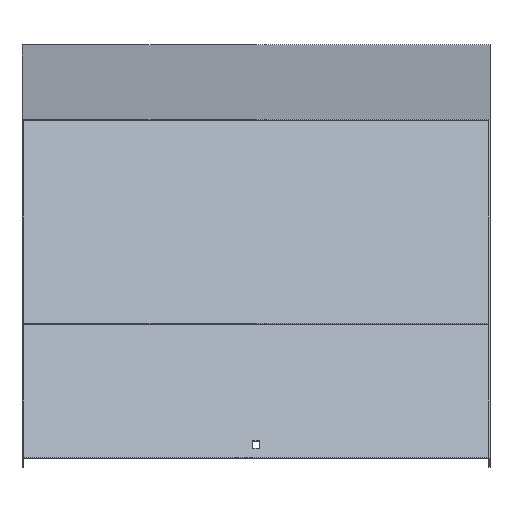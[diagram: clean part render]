
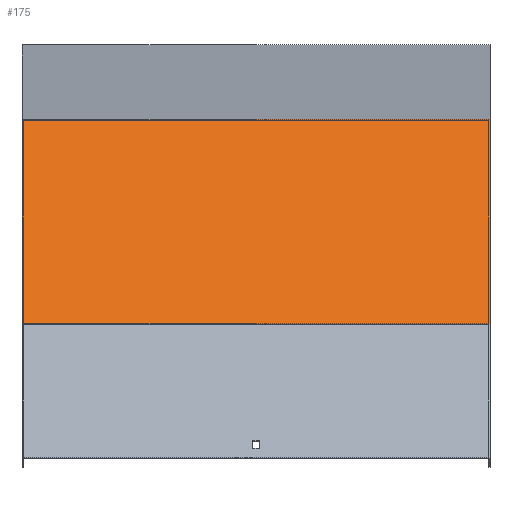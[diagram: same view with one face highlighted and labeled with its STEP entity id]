
A CAD part, top view. The second image highlights one B-rep face of the part: STEP entity #175.
In plain terms, the highlighted planar face has unit normal (0, 0.707, 0.707).
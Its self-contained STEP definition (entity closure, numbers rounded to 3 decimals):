
#68 = EDGE_LOOP ( 'NONE', ( #323, #306, #930, #759 ) ) ;
#74 = LINE ( 'NONE', #746, #324 ) ;
#97 = VERTEX_POINT ( 'NONE', #743 ) ;
#98 = CARTESIAN_POINT ( 'NONE',  ( -251.5, -60.491, 467.028 ) ) ;
#131 = FACE_OUTER_BOUND ( 'NONE', #68, .T. ) ;
#175 = ADVANCED_FACE ( 'NONE', ( #131 ), #219, .F. ) ;
#177 = LINE ( 'NONE', #478, #627 ) ;
#194 = DIRECTION ( 'NONE',  ( -1., 0., 0. ) ) ;
#219 = PLANE ( 'NONE',  #783 ) ;
#294 = VERTEX_POINT ( 'NONE', #543 ) ;
#306 = ORIENTED_EDGE ( 'NONE', *, *, #549, .F. ) ;
#308 = EDGE_CURVE ( 'NONE', #896, #294, #177, .T. ) ;
#323 = ORIENTED_EDGE ( 'NONE', *, *, #308, .T. ) ;
#324 = VECTOR ( 'NONE', #520, 1000. ) ;
#358 = CARTESIAN_POINT ( 'NONE',  ( 251.5, -64.28, 470.818 ) ) ;
#443 = DIRECTION ( 'NONE',  ( 0., -0.707, 0.707 ) ) ;
#458 = VECTOR ( 'NONE', #194, 1000. ) ;
#478 = CARTESIAN_POINT ( 'NONE',  ( -251.5, -64.28, 470.818 ) ) ;
#480 = VERTEX_POINT ( 'NONE', #761 ) ;
#520 = DIRECTION ( 'NONE',  ( -1., 0., 0. ) ) ;
#543 = CARTESIAN_POINT ( 'NONE',  ( -251.5, -280.395, 686.933 ) ) ;
#544 = EDGE_CURVE ( 'NONE', #97, #480, #980, .T. ) ;
#549 = EDGE_CURVE ( 'NONE', #480, #294, #74, .T. ) ;
#576 = LINE ( 'NONE', #884, #458 ) ;
#607 = DIRECTION ( 'NONE',  ( 0., -0.707, -0.707 ) ) ;
#627 = VECTOR ( 'NONE', #779, 1000. ) ;
#743 = CARTESIAN_POINT ( 'NONE',  ( 251.5, -60.491, 467.028 ) ) ;
#746 = CARTESIAN_POINT ( 'NONE',  ( 251.5, -280.395, 686.933 ) ) ;
#749 = DIRECTION ( 'NONE',  ( 0., 0.707, -0.707 ) ) ;
#759 = ORIENTED_EDGE ( 'NONE', *, *, #965, .T. ) ;
#761 = CARTESIAN_POINT ( 'NONE',  ( 251.5, -280.395, 686.933 ) ) ;
#762 = CARTESIAN_POINT ( 'NONE',  ( 251.5, -64.28, 470.818 ) ) ;
#764 = VECTOR ( 'NONE', #443, 1000. ) ;
#779 = DIRECTION ( 'NONE',  ( 0., -0.707, 0.707 ) ) ;
#783 = AXIS2_PLACEMENT_3D ( 'NONE', #762, #607, #749 ) ;
#884 = CARTESIAN_POINT ( 'NONE',  ( 251.5, -60.491, 467.028 ) ) ;
#896 = VERTEX_POINT ( 'NONE', #98 ) ;
#930 = ORIENTED_EDGE ( 'NONE', *, *, #544, .F. ) ;
#965 = EDGE_CURVE ( 'NONE', #97, #896, #576, .T. ) ;
#980 = LINE ( 'NONE', #358, #764 ) ;
